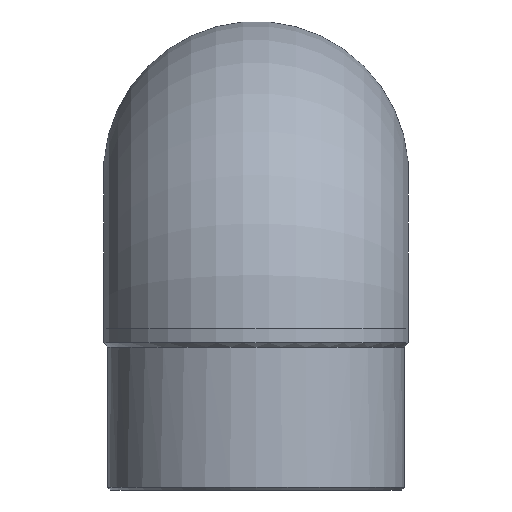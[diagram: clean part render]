
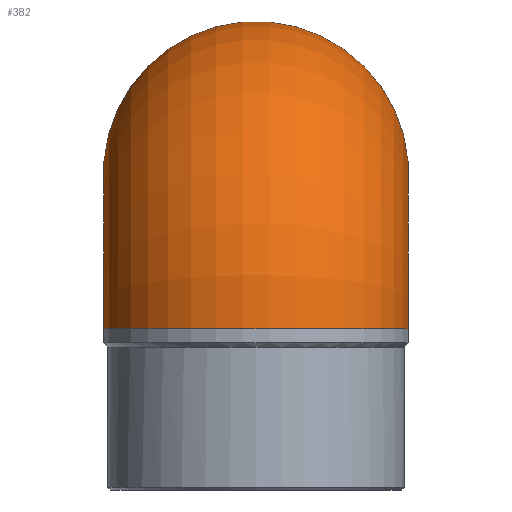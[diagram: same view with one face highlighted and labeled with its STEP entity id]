
A CAD part, left-side view. The second image highlights one B-rep face of the part: STEP entity #382.
In plain terms, the highlighted toroidal (fillet/blend) face has major radius 185 mm and minor radius 182.5 mm.
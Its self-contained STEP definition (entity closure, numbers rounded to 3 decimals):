
#26=TOROIDAL_SURFACE('',#433,185.,182.5);
#119=ORIENTED_EDGE('',*,*,#218,.F.);
#120=ORIENTED_EDGE('',*,*,#201,.F.);
#121=ORIENTED_EDGE('',*,*,#219,.T.);
#122=ORIENTED_EDGE('',*,*,#204,.T.);
#201=EDGE_CURVE('',#253,#251,#283,.F.);
#204=EDGE_CURVE('',#257,#255,#285,.F.);
#218=EDGE_CURVE('',#251,#255,#291,.F.);
#219=EDGE_CURVE('',#253,#257,#292,.F.);
#251=VERTEX_POINT('',#588);
#253=VERTEX_POINT('',#599);
#255=VERTEX_POINT('',#606);
#257=VERTEX_POINT('',#609);
#283=CIRCLE('',#419,182.5);
#285=CIRCLE('',#423,182.5);
#291=CIRCLE('',#434,3.117);
#292=CIRCLE('',#435,3.117);
#315=EDGE_LOOP('',(#119,#120,#121,#122));
#350=FACE_BOUND('',#315,.T.);
#382=ADVANCED_FACE('',(#350),#26,.T.);
#419=AXIS2_PLACEMENT_3D('',#600,#471,#472);
#423=AXIS2_PLACEMENT_3D('',#608,#480,#481);
#433=AXIS2_PLACEMENT_3D('',#673,#501,#502);
#434=AXIS2_PLACEMENT_3D('',#674,#503,#504);
#435=AXIS2_PLACEMENT_3D('',#675,#505,#506);
#471=DIRECTION('',(-1.,0.,0.));
#472=DIRECTION('',(0.,0.,-1.));
#480=DIRECTION('',(0.,0.,-1.));
#481=DIRECTION('',(1.,0.,0.));
#501=DIRECTION('',(0.,1.,0.));
#502=DIRECTION('',(0.,0.,1.));
#503=DIRECTION('',(0.,1.,0.));
#504=DIRECTION('',(0.,0.,1.));
#505=DIRECTION('',(0.,1.,0.));
#506=DIRECTION('',(0.,0.,1.));
#588=CARTESIAN_POINT('',(185.,-15.,196.117));
#599=CARTESIAN_POINT('',(185.,15.,196.117));
#600=CARTESIAN_POINT('',(185.,0.,378.));
#606=CARTESIAN_POINT('',(181.883,-15.,193.));
#608=CARTESIAN_POINT('',(0.,0.,193.));
#609=CARTESIAN_POINT('',(181.883,15.,193.));
#673=CARTESIAN_POINT('',(185.,0.,193.));
#674=CARTESIAN_POINT('',(185.,-15.,193.));
#675=CARTESIAN_POINT('',(185.,15.,193.));
